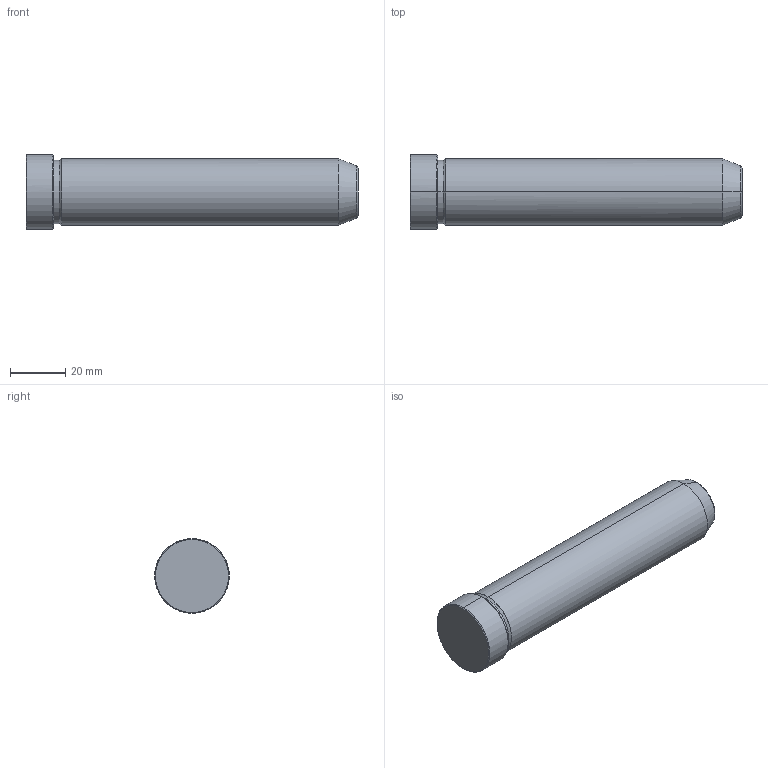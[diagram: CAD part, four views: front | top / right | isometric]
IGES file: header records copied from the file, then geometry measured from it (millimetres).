
Start section: START RECORD GO HERE.
Global section: file name: 549-24X120.igs; native system: DASSAULT SYSTEMES CATIA V5 R20 - www.3ds.com; preprocessor: CATIA Version 5 Release 20 ; author: Utente; organization: NB04-ASUS; date: 20211217.150523; units: millimetre
Bounding box: 120 x 27 x 27 mm (x, y, z)
Surface area: 10073 mm2 (no closed solid volume)
Topology: 0 solids, 0 shells, 19 faces, 112 edges, 112 vertices
Faces by surface type: revolution 16, plane 3
